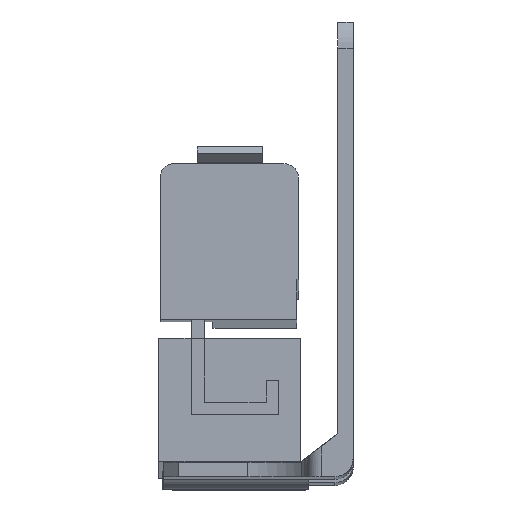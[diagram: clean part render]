
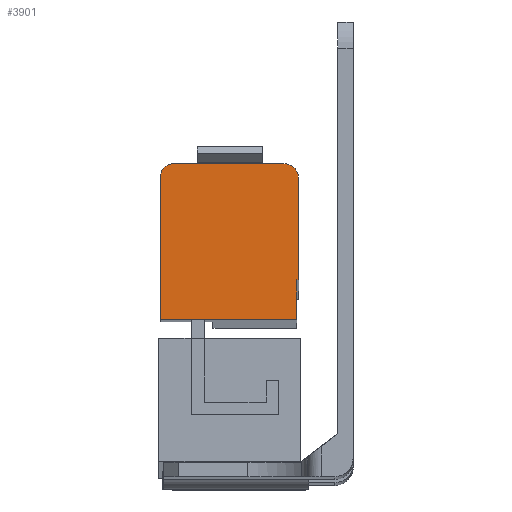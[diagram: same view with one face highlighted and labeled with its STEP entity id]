
A CAD part, front view. The second image highlights one B-rep face of the part: STEP entity #3901.
In plain terms, the highlighted planar face has unit normal (0, -1, 0.007).
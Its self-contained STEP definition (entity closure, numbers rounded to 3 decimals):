
#3 = VERTEX_POINT ( 'NONE', #263 ) ;
#7 = VERTEX_POINT ( 'NONE', #267 ) ;
#13 = VERTEX_POINT ( 'NONE', #273 ) ;
#14 = VERTEX_POINT ( 'NONE', #274 ) ;
#18 = VERTEX_POINT ( 'NONE', #278 ) ;
#21 = VERTEX_POINT ( 'NONE', #281 ) ;
#24 = VERTEX_POINT ( 'NONE', #284 ) ;
#39 = VERTEX_POINT ( 'NONE', #299 ) ;
#263 = CARTESIAN_POINT ( 'NONE',  ( -9.55, -22.132, -4.549 ) ) ;
#267 = CARTESIAN_POINT ( 'NONE',  ( -24.75, -22.132, -4.549 ) ) ;
#273 = CARTESIAN_POINT ( 'NONE',  ( -26.5, -22.282, -26.049 ) ) ;
#274 = CARTESIAN_POINT ( 'NONE',  ( -7.75, -22.244, -20.549 ) ) ;
#278 = CARTESIAN_POINT ( 'NONE',  ( -26.5, -22.144, -6.299 ) ) ;
#281 = CARTESIAN_POINT ( 'NONE',  ( -7.5, -22.146, -6.599 ) ) ;
#284 = CARTESIAN_POINT ( 'NONE',  ( -7.75, -22.282, -26.049 ) ) ;
#299 = CARTESIAN_POINT ( 'NONE',  ( -7.5, -22.244, -20.549 ) ) ;
#982 = PLANE ( 'NONE',  #4468 ) ;
#983 = CARTESIAN_POINT ( 'NONE',  ( -24.75, -22.144, -6.299 ) ) ;
#984 = DIRECTION ( 'NONE',  ( 0., -1., 0.007 ) ) ;
#985 = DIRECTION ( 'NONE',  ( 0., -0.007, -1. ) ) ;
#1453 = ORIENTED_EDGE ( 'NONE', *, *, #4309, .T. ) ;
#1454 = ORIENTED_EDGE ( 'NONE', *, *, #4311, .T. ) ;
#1455 = ORIENTED_EDGE ( 'NONE', *, *, #4304, .T. ) ;
#1456 = ORIENTED_EDGE ( 'NONE', *, *, #4313, .T. ) ;
#1457 = ORIENTED_EDGE ( 'NONE', *, *, #4317, .T. ) ;
#1458 = ORIENTED_EDGE ( 'NONE', *, *, #4321, .T. ) ;
#1459 = ORIENTED_EDGE ( 'NONE', *, *, #4322, .T. ) ;
#1460 = ORIENTED_EDGE ( 'NONE', *, *, #4318, .T. ) ;
#2210 = EDGE_LOOP ( 'NONE', ( #1453, #1454, #1455, #1456, #1457, #1458, #1459, #1460 ) ) ;
#2439 = FACE_OUTER_BOUND ( 'NONE', #2210, .T. ) ;
#3057 = LINE ( 'NONE', #3630, #3058 ) ;
#3058 = VECTOR ( 'NONE', #3631, 1000. ) ;
#3067 = LINE ( 'NONE', #3640, #3068 ) ;
#3068 = VECTOR ( 'NONE', #3641, 1000. ) ;
#3072 = CIRCLE ( 'NONE', #3762, 2.05 ) ;
#3075 = CIRCLE ( 'NONE', #3763, 1.75 ) ;
#3081 = LINE ( 'NONE', #3658, #3082 ) ;
#3082 = VECTOR ( 'NONE', #3659, 1000. ) ;
#3083 = LINE ( 'NONE', #3660, #3084 ) ;
#3084 = VECTOR ( 'NONE', #3661, 1000. ) ;
#3089 = LINE ( 'NONE', #3666, #3090 ) ;
#3090 = VECTOR ( 'NONE', #3667, 1000. ) ;
#3091 = LINE ( 'NONE', #3668, #3092 ) ;
#3092 = VECTOR ( 'NONE', #3669, 1000. ) ;
#3630 = CARTESIAN_POINT ( 'NONE',  ( -24.75, -22.132, -4.549 ) ) ;
#3631 = DIRECTION ( 'NONE',  ( -1., 0., 0. ) ) ;
#3640 = CARTESIAN_POINT ( 'NONE',  ( -7.5, -22.146, -6.599 ) ) ;
#3641 = DIRECTION ( 'NONE',  ( 0., 0.007, 1. ) ) ;
#3644 = CARTESIAN_POINT ( 'NONE',  ( -9.55, -22.146, -6.599 ) ) ;
#3645 = DIRECTION ( 'NONE',  ( 0., -1., 0.007 ) ) ;
#3646 = DIRECTION ( 'NONE',  ( 0., 0.007, 1. ) ) ;
#3649 = CARTESIAN_POINT ( 'NONE',  ( -24.75, -22.144, -6.299 ) ) ;
#3650 = DIRECTION ( 'NONE',  ( 0., -1., 0.007 ) ) ;
#3651 = DIRECTION ( 'NONE',  ( 0., -0.007, -1. ) ) ;
#3658 = CARTESIAN_POINT ( 'NONE',  ( -26.5, -22.144, -6.299 ) ) ;
#3659 = DIRECTION ( 'NONE',  ( 0., -0.007, -1. ) ) ;
#3660 = CARTESIAN_POINT ( 'NONE',  ( -26.5, -22.244, -20.549 ) ) ;
#3661 = DIRECTION ( 'NONE',  ( 1., 0., 0. ) ) ;
#3666 = CARTESIAN_POINT ( 'NONE',  ( -7.75, -22.282, -26.049 ) ) ;
#3667 = DIRECTION ( 'NONE',  ( 1., 0., 0. ) ) ;
#3668 = CARTESIAN_POINT ( 'NONE',  ( -7.75, -22.282, -26.049 ) ) ;
#3669 = DIRECTION ( 'NONE',  ( 0., 0.007, 1. ) ) ;
#3762 = AXIS2_PLACEMENT_3D ( 'NONE', #3644, #3645, #3646 ) ;
#3763 = AXIS2_PLACEMENT_3D ( 'NONE', #3649, #3650, #3651 ) ;
#3901 = ADVANCED_FACE ( 'NONE', ( #2439 ), #982, .T. ) ;
#4304 = EDGE_CURVE ( 'NONE', #3, #7, #3057, .T. ) ;
#4309 = EDGE_CURVE ( 'NONE', #39, #21, #3067, .T. ) ;
#4311 = EDGE_CURVE ( 'NONE', #21, #3, #3072, .T. ) ;
#4313 = EDGE_CURVE ( 'NONE', #7, #18, #3075, .T. ) ;
#4317 = EDGE_CURVE ( 'NONE', #18, #13, #3081, .T. ) ;
#4318 = EDGE_CURVE ( 'NONE', #14, #39, #3083, .T. ) ;
#4321 = EDGE_CURVE ( 'NONE', #13, #24, #3089, .T. ) ;
#4322 = EDGE_CURVE ( 'NONE', #24, #14, #3091, .T. ) ;
#4468 = AXIS2_PLACEMENT_3D ( 'NONE', #983, #984, #985 ) ;
